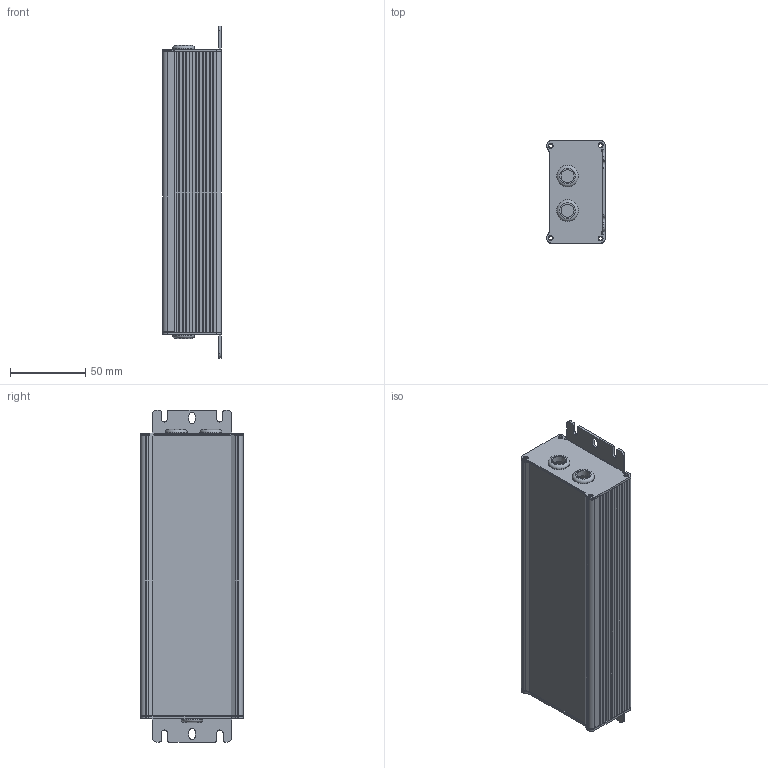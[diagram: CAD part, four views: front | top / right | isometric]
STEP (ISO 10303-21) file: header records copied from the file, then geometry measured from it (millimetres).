
FILE_DESCRIPTION((''),'2;1');
FILE_NAME('W:\mechanical\機構工程圖\3D圖檔\3D Outline-2020\已完成待審核\HLG-120-CB.stp','2020-06-12T08:50:55',('shirley'),(''),'Autodesk Inventor 2010','Autodesk Inventor 2010','');
FILE_SCHEMA(('AUTOMOTIVE_DESIGN { 1 0 10303 214 1 1 1 1 }'));
Length unit declared in the file: millimetre
Products named in the file (12): HLG-120-CB; ˋ°Ûy; gg; M3-10Lê°˜W.1; 組合61; HLG-120-CA; ¯¥ˆO1; ¯¥ˆO; pcb
Assembly tree (14 placements, depth 3):
  HLG-120-CB
    ˋ°Ûy
      gg
      M3-10Lê°˜W.1  x4
    組合61
      HLG-120-CA
    ¯¥ˆO1
      ¯¥ˆO1
    ¯¥ˆO
      ¯¥ˆO
    pcb
      pcb
Bounding box: 38.74 x 68.12 x 220.8 mm (x, y, z)
Volume: 107911.5 mm3; surface area: 123047.4 mm2
Topology: 9 solids, 9 shells, 257 faces, 688 edges, 464 vertices
Faces by surface type: plane 165, cylinder 89, torus 3
Full cylindrical faces by diameter (mm): 3 x4, 3.3 x8, 3.5 x4, 5 x4, 7 x4, 8.6 x3, 14.5 x3
Entity records: 7986 total; most frequent: CARTESIAN_POINT 1338, DIRECTION 1327, ORIENTED_EDGE 1260, EDGE_CURVE 630, VECTOR 471, LINE 471, VERTEX_POINT 435, AXIS2_PLACEMENT_3D 428
